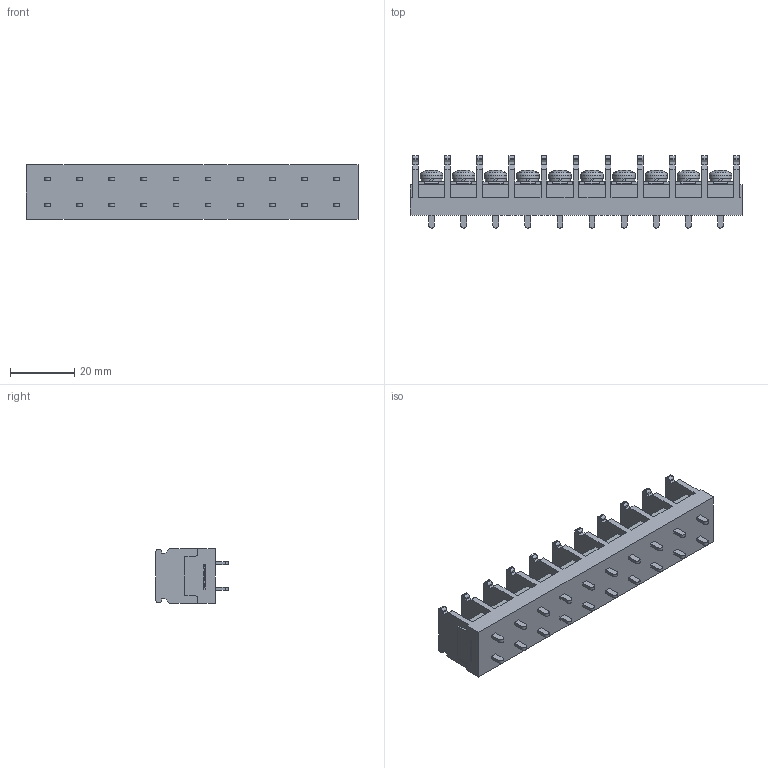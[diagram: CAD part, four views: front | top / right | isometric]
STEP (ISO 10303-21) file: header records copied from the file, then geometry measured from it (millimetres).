
FILE_DESCRIPTION(/* description */ ('Alibre Inc.'),/* implementation_level */ '2;1');
FILE_NAME(/* name */ 'export0',/* time_stamp */ '2015-10-17T15:37:46+09:00',/* author */ (''),/* organization */ (''),/* preprocessor_version */ 'ST-DEVELOPER v14',/* originating_system */ 'Alibre',/* authorisation */ '');
FILE_SCHEMA (('CONFIG_CONTROL_DESIGN'));
Length unit declared in the file: centimetre
Products named in the file (1): ID_1
Bounding box: 103.4 x 22.5 x 17 mm (x, y, z)
Volume: 19792.2 mm3; surface area: 11682.8 mm2
Topology: 1 solids, 17 shells, 1128 faces, 3072 edges, 2038 vertices
Faces by surface type: plane 840, cylinder 114, bspline 104, cone 40, torus 20, sphere 10
Full cylindrical faces by diameter (mm): 4 x10, 6.5 x10, 7 x10
Entity records: 34378 total; most frequent: CARTESIAN_POINT 7376, ORIENTED_EDGE 6004, DIRECTION 4432, EDGE_CURVE 3002, VECTOR 2188, LINE 2188, VERTEX_POINT 2008, AXIS2_PLACEMENT_3D 1532
